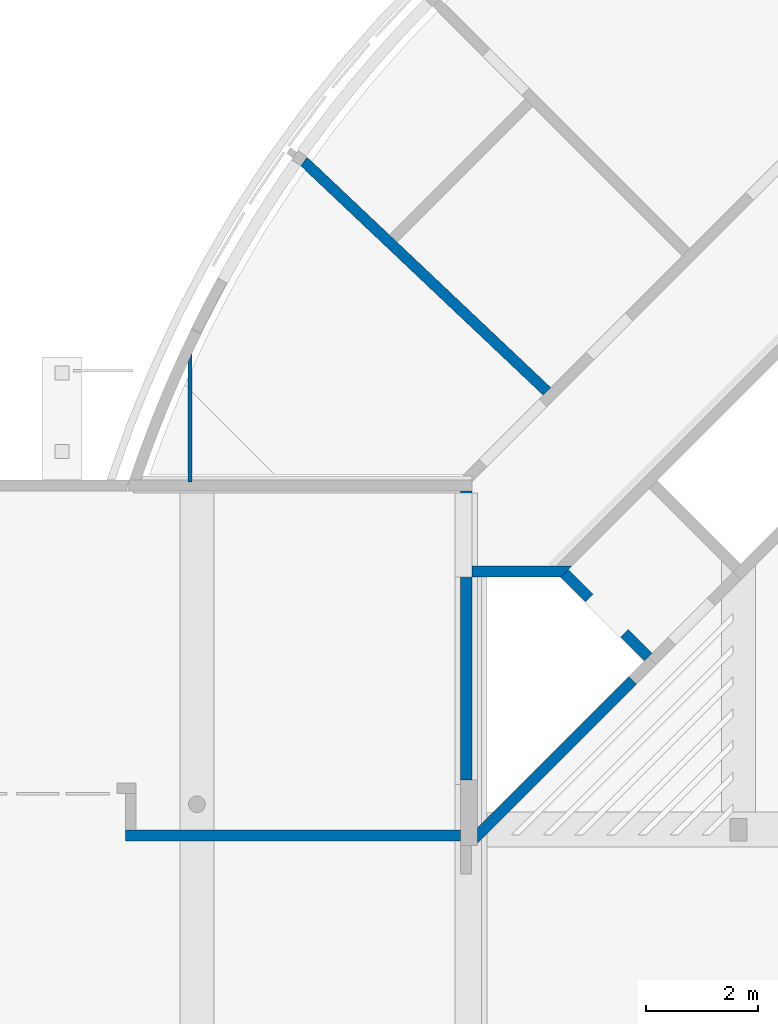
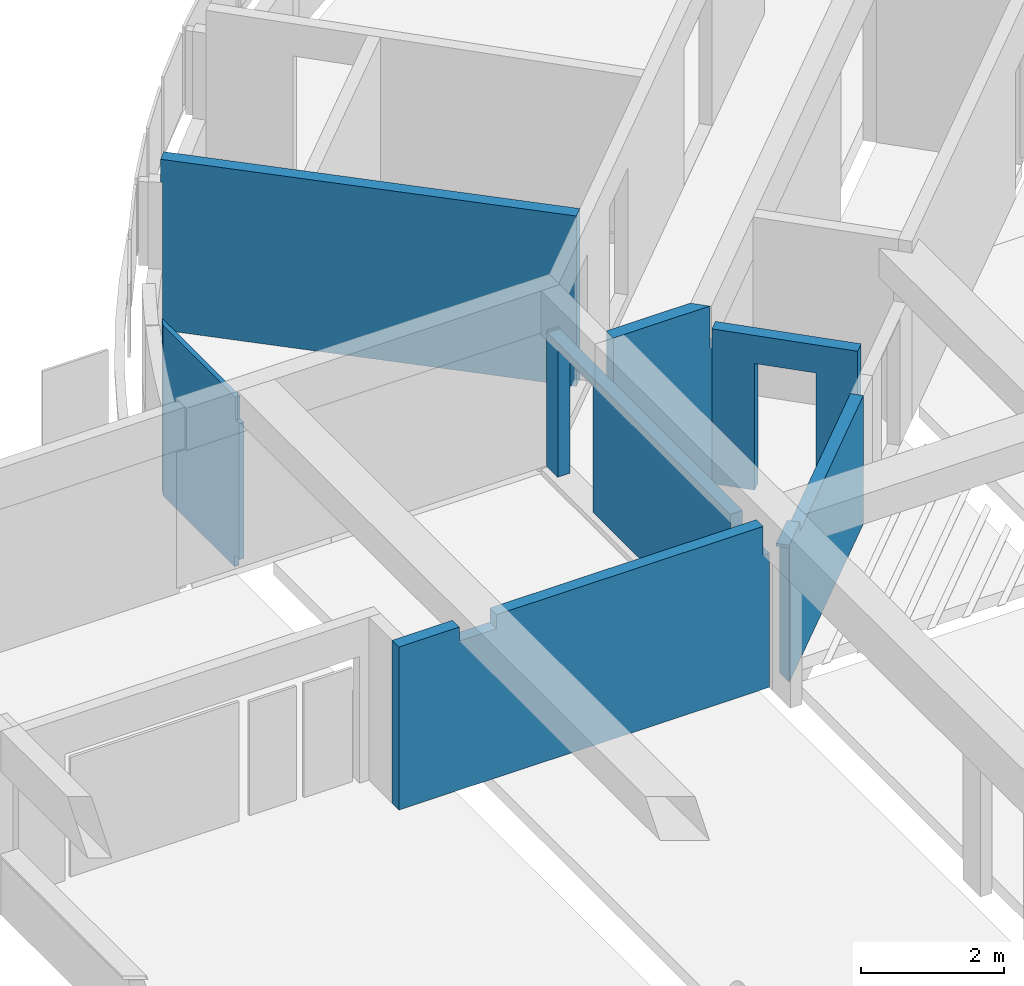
# One storey, part 19 of 22: 7 walls.
"""IFC4X3_ADD2 building model written with IfcOpenShell, lengths in millimetres."""

from ifc_helpers import new_model, si_unit, direction, frame, origin_with_axes, place, context, subcontext, project, spatial, polygons, source, transform, mapped, type_object, type_shapes, element, save


model = new_model("IFC4X3_ADD2")

# Units and contexts
model_context = context("Model", 3, precision=1e-05, world=origin_with_axes(), true_north=direction((0.0, 1.0)))
body_context = subcontext(model_context, "Body", "Model", "MODEL_VIEW")
ifc_project = project(units=[si_unit("LENGTHUNIT", "METRE", prefix="MILLI"), si_unit("AREAUNIT", "SQUARE_METRE"), si_unit("VOLUMEUNIT", "CUBIC_METRE"), si_unit("PLANEANGLEUNIT", "RADIAN"), si_unit("TIMEUNIT", "SECOND"), si_unit("MASSUNIT", "GRAM")], contexts=[model_context])

# Site, building, storey
site_placement = place(None, origin_with_axes())
site = spatial("IfcSite", under=ifc_project, at=site_placement, Name="Site", CompositionType="ELEMENT")
building_placement = place(site_placement, origin_with_axes())
building = spatial("IfcBuilding", under=site, at=building_placement, Name="IFC Building Story")
storey_placement = place(building_placement, frame((0.0, 0.0, -3240.0), z_axis=(0.0, 0.0, 1.0), x_axis=(1.0, 0.0, 0.0)))
storey = spatial("IfcBuildingStorey", under=building, at=storey_placement, Name="K10", Elevation=-3240.0)

# Walls
wall_type = type_object("IfcWallType", Name="Basic Wall_BB_10.01.62#01_Voorzetwand gipskarton_MS75 _ 50.25_ 75 mm", PredefinedType="NOTDEFINED")
shared_shape = source(origin_with_axes(), body_context, "Body", "Tessellation", [
    polygons([(2292.76079066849, 37.5000000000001, 2519.99999999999), (2187.76079066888, 37.5000000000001, 2519.99999999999), (2187.76079066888, 25.000000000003, 2519.99999999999), (2292.76079066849, 25.000000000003, 2519.99999999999), (26.7488330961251, 25.000000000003, 2910.0), (2187.76079066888, 25.000000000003, 2910.0), (2187.76079066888, 37.5000000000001, 2910.0), (0.0, 37.5000000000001, 2910.0), (13.372326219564, 31.2455070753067, 2910.0), (2162.76079066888, 25.000000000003, 0.0), (26.7488330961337, 25.000000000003, 0.0), (13.3723262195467, 31.2455070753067, 0.0), (1.25612586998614e-10, 37.4999999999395, 0.0), (2162.76079066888, 37.5000000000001, 0.0), (2292.76079066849, 25.000000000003, 200.0), (2162.76079066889, 25.000000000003, 200.0), (2162.76079066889, 37.5000000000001, 200.0), (2292.76079066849, 37.5000000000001, 200.0), (13.0940568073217, 31.3755475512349, 1290.55410443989), (1.25612586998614e-10, 37.4999999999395, 1259.99999999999), (12.3748671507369, 31.7116602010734, 1183.40402303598), (13.5488535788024, 31.1630150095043, 2234.49856333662), (1.29944055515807e-10, 37.4999999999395, 2362.49999999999), (1.25612586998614e-10, 37.4999999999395, 2204.99999999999), (1.25612586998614e-10, 37.4999999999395, 1889.99999999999), (13.5554349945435, 31.1599395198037, 1979.52011518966), (1.29944055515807e-10, 37.4999999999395, 2047.49999999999), (13.3723186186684, 31.2455106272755, 723.828161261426), (12.9948402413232, 31.4219144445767, 877.020115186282), (1.2128111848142e-10, 37.4999999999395, 800.424138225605), (1.29944055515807e-10, 37.4999999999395, 161.808046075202), (13.372318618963, 31.2455106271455, 134.069083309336), (13.3723186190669, 31.2455106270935, 242.712069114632), (13.3723186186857, 31.2455106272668, 404.520115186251), (1.2128111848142e-10, 37.4999999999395, 485.424138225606), (1.25612586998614e-10, 37.4999999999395, 323.616092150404), (1.25612586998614e-10, 37.4999999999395, 647.232184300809), (13.3723186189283, 31.2455106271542, 613.503881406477), (1.25612586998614e-10, 37.4999999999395, 2519.99999999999), (13.4904824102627, 31.1902919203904, 2405.60296038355), (13.3723186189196, 31.2455106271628, 2519.99999999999), (13.3723186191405, 31.2455106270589, 2772.04798848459), (1.51601398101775e-10, 37.4999999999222, 2829.09597696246), (1.99247551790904e-10, 37.4999999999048, 2681.80804607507), (26.7488330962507, 24.9999999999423, 2196.38390784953), (26.7488330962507, 24.9999999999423, 2358.19195392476), (26.7488330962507, 24.9999999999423, 1907.23218430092), (26.7488330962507, 24.9999999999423, 2051.80804607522), (1.25612586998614e-10, 37.4999999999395, 1106.8080460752), (13.1779549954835, 31.3363398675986, 2124.09597696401), (26.7488330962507, 24.9999999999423, 161.808046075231), (26.7488330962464, 24.9999999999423, 323.616092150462), (26.7488330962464, 24.9999999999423, 485.424138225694), (26.748833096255, 24.9999999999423, 647.232184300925), (26.748833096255, 24.9999999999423, 809.040230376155), (26.7488330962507, 24.9999999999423, 2519.99999999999), (26.748833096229, 24.999999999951, 2600.90402303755), (26.7488330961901, 24.9999999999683, 2714.99999999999), (26.7488330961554, 24.9999999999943, 2829.09597696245), (13.7794021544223, 31.0552814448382, 509.01199829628), (13.1364367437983, 31.355742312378, 984.818093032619), (1.25612586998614e-10, 37.4999999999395, 953.616092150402), (1.25612586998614e-10, 37.4999999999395, 1417.49999999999), (13.66710750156, 31.1077554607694, 1870.38995837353), (26.7488330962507, 24.9999999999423, 1447.65632252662), (12.8607753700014, 31.4845679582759, 1460.56724686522), (13.6497667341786, 31.1158586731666, 1570.21363494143), (26.7488330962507, 24.9999999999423, 970.848276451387), (26.7488330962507, 24.9999999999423, 1294.46436860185), (14.2316667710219, 30.8439511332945, 1677.4442534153), (26.7488330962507, 24.9999999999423, 1600.84827645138), (1.25612586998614e-10, 37.4999999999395, 1574.99999999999), (14.7036551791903, 30.623417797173, 1774.05323855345), (1.29944055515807e-10, 37.4999999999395, 1732.49999999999), (26.7488330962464, 24.9999999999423, 1754.04023037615), (26.7488330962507, 24.9999999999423, 1132.65632252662), (15.364791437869, 30.3145293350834, 1084.72827126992), (14.1860760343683, 30.8652538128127, 2657.95201152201)], [[[1, 2, 3, 4]], [[9, 5, 6]], [[9, 6, 7]], [[7, 8, 9]], [[12, 13, 14]], [[14, 10, 11]], [[14, 11, 12]], [[15, 16, 17, 18]], [[19, 20, 21]], [[22, 23, 24]], [[25, 26, 27]], [[28, 29, 30]], [[31, 13, 12]], [[31, 12, 32]], [[33, 34, 35]], [[33, 35, 36]], [[36, 31, 32]], [[36, 32, 33]], [[37, 35, 38]], [[38, 28, 30]], [[38, 30, 37]], [[39, 40, 41]], [[43, 44, 42]], [[42, 9, 8]], [[42, 8, 43]], [[45, 46, 22]], [[26, 47, 48]], [[21, 20, 49]], [[50, 48, 45]], [[52, 53, 34]], [[52, 34, 33]], [[33, 32, 51]], [[33, 51, 52]], [[32, 12, 11]], [[32, 11, 51]], [[54, 55, 28]], [[54, 28, 38]], [[38, 53, 54]], [[56, 57, 41, 40]], [[59, 5, 9]], [[59, 9, 42]], [[42, 58, 59]], [[50, 22, 24]], [[60, 35, 34]], [[39, 23, 22, 40]], [[55, 29, 28]], [[61, 49, 62, 29]], [[63, 20, 19]], [[29, 62, 30]], [[64, 47, 26]], [[65, 66, 19]], [[67, 66, 65]], [[50, 27, 26]], [[29, 68, 61]], [[65, 19, 69]], [[70, 67, 71]], [[64, 26, 25]], [[22, 50, 45]], [[24, 27, 50]], [[50, 26, 48]], [[67, 70, 72]], [[73, 74, 70]], [[25, 74, 73]], [[75, 70, 71]], [[75, 47, 64]], [[22, 46, 56, 40]], [[76, 21, 77]], [[19, 21, 69]], [[60, 34, 53]], [[68, 29, 55]], [[77, 68, 76]], [[73, 70, 75]], [[72, 70, 74]], [[66, 72, 63]], [[65, 71, 67]], [[77, 49, 61]], [[69, 21, 76]], [[49, 77, 21]], [[68, 77, 61]], [[53, 38, 60]], [[35, 60, 38]], [[75, 64, 73]], [[73, 64, 25]], [[72, 66, 67]], [[19, 66, 63]], [[4, 15, 18, 1]], [[10, 14, 17, 16]], [[3, 2, 7, 6]], [[3, 6, 16]], [[16, 15, 4]], [[16, 4, 3]], [[51, 11, 10]], [[51, 10, 16]], [[16, 52, 51]], [[16, 53, 52]], [[16, 54, 53]], [[16, 55, 54]], [[16, 68, 55]], [[16, 76, 68]], [[16, 69, 76]], [[16, 65, 69]], [[16, 6, 71]], [[16, 71, 65]], [[6, 75, 71]], [[6, 47, 75]], [[6, 48, 47]], [[6, 45, 48]], [[6, 46, 45]], [[6, 56, 46]], [[6, 57, 56]], [[6, 58, 57]], [[6, 59, 58]], [[6, 5, 59]], [[17, 14, 13]], [[17, 13, 31]], [[43, 8, 7]], [[7, 44, 43]], [[7, 39, 44]], [[7, 23, 39]], [[7, 24, 23]], [[7, 27, 24]], [[7, 25, 27]], [[7, 74, 25]], [[7, 17, 72]], [[7, 72, 74]], [[17, 63, 72]], [[17, 20, 63]], [[17, 49, 20]], [[17, 62, 49]], [[17, 30, 62]], [[17, 37, 30]], [[17, 35, 37]], [[17, 36, 35]], [[17, 31, 36]], [[2, 1, 18]], [[2, 18, 17]], [[17, 7, 2]], [[78, 42, 44]], [[78, 57, 58]], [[39, 41, 78]], [[57, 78, 41]], [[42, 78, 58]], [[78, 44, 39]]]),
    polygons([(2292.76079066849, 25.000000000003, 2519.99999999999), (2187.76079066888, 25.000000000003, 2519.99999999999), (2187.76079066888, 12.4999999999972, 2519.99999999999), (2292.76079066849, 12.4999999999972, 2519.99999999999), (53.5917101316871, 12.4999999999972, 2910.0), (2187.76079066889, 12.4999999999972, 2910.0), (2187.76079066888, 25.000000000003, 2910.0), (26.7488330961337, 25.000000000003, 2910.0), (40.1681722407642, 18.7454796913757, 2910.0), (2162.76079066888, 25.000000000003, 200.0), (2162.76079066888, 25.000000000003, 0.0), (26.7488330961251, 25.000000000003, 0.0), (26.7488330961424, 24.9999999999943, 161.808046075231), (26.7488330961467, 24.9999999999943, 323.616092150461), (26.7488330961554, 24.9999999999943, 485.424138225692), (26.7488330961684, 24.9999999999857, 647.232184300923), (26.7488330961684, 24.9999999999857, 800.424138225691), (26.7488330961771, 24.9999999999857, 953.616092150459), (26.7488330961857, 24.999999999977, 1106.80804607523), (26.7488330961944, 24.9999999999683, 1259.99999999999), (26.7488330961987, 24.9999999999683, 1417.49999999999), (26.7488330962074, 24.9999999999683, 1574.99999999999), (26.7488330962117, 24.9999999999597, 1732.49999999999), (26.7488330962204, 24.9999999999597, 1889.99999999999), (26.748833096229, 24.999999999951, 2047.49999999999), (26.7488330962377, 24.999999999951, 2204.99999999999), (26.748833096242, 24.9999999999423, 2362.49999999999), (26.7488330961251, 25.000000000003, 2519.99999999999), (26.7488330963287, 24.9999999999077, 2681.8080460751), (26.748833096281, 24.9999999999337, 2829.09597696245), (2292.76079066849, 25.000000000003, 200.0), (2162.76079066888, 12.4999999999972, 0.0), (53.5917101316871, 12.4999999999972, 0.0), (40.1681722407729, 18.7454796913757, 0.0), (2292.76079066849, 12.4999999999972, 200.0), (2162.76079066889, 12.4999999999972, 200.0), (40.451643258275, 18.6134773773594, 1263.63009914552), (41.2899883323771, 18.2231187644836, 1371.06034556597), (40.3464740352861, 18.6624503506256, 2234.91488742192), (40.3508715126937, 18.6604026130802, 1979.52011518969), (39.01460767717, 19.2827040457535, 931.468849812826), (53.5917101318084, 12.4999999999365, 809.040230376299), (53.5917101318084, 12.4999999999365, 970.848276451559), (40.1681676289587, 18.7454818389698, 133.674840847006), (40.1681676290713, 18.7454818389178, 242.712069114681), (40.1681676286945, 18.7454818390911, 404.520115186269), (40.1681676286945, 18.7454818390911, 723.82816126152), (40.1681676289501, 18.7454818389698, 613.087465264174), (40.2855447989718, 18.6908228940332, 2405.40317962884), (40.1681676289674, 18.7454818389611, 2519.99999999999), (40.1681676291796, 18.7454818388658, 2772.0479884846), (53.591710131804, 12.4999999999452, 2196.38390784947), (53.5917101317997, 12.4999999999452, 2358.19195392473), (53.5917101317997, 12.4999999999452, 1907.23218430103), (53.5917101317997, 12.4999999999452, 2051.80804607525), (39.8849088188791, 18.877390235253, 1137.85454619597), (39.459805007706, 19.0753624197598, 1030.21206911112), (39.9742418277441, 18.8357889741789, 2124.095976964), (53.5917101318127, 12.4999999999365, 161.80804607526), (53.5917101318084, 12.4999999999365, 323.61609215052), (53.5917101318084, 12.4999999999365, 485.42413822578), (53.5917101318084, 12.4999999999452, 647.232184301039), (53.5917101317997, 12.4999999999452, 2519.99999999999), (53.5917101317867, 12.4999999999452, 2600.90402303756), (53.5917101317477, 12.4999999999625, 2714.99999999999), (53.5917101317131, 12.4999999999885, 2829.09597696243), (40.633281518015, 18.5288975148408, 508.803790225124), (40.0209925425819, 18.8140179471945, 832.980088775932), (40.4664048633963, 18.6066035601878, 1869.99530687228), (53.5917101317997, 12.4999999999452, 1754.0402303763), (53.5917101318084, 12.4999999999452, 1132.65632252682), (53.5917101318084, 12.4999999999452, 1294.46436860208), (53.5917101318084, 12.4999999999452, 1447.65632252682), (53.5917101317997, 12.4999999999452, 1600.84827645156), (40.4506198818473, 18.6139539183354, 1569.85349772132), (37.9270951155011, 19.7892418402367, 1469.69131598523), (41.0255799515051, 18.3462306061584, 1677.44425341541), (40.9800919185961, 18.3674108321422, 2657.95201152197), (41.556016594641, 18.0992569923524, 1773.86469636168)], [[[1, 2, 3, 4]], [[9, 5, 6]], [[9, 6, 7]], [[7, 8, 9]], [[10, 11, 12]], [[10, 12, 13]], [[30, 8, 7]], [[7, 29, 30]], [[7, 28, 29]], [[7, 27, 28]], [[7, 26, 27]], [[7, 25, 26]], [[7, 24, 25]], [[7, 23, 24]], [[7, 22, 23]], [[7, 10, 21]], [[7, 21, 22]], [[10, 20, 21]], [[10, 19, 20]], [[10, 18, 19]], [[10, 17, 18]], [[10, 16, 17]], [[10, 15, 16]], [[10, 14, 15]], [[10, 13, 14]], [[2, 1, 31]], [[2, 31, 10]], [[10, 7, 2]], [[34, 12, 11]], [[11, 32, 33]], [[11, 33, 34]], [[35, 36, 10, 31]], [[20, 37, 38]], [[39, 27, 26]], [[24, 40, 25]], [[41, 42, 43]], [[13, 12, 34]], [[13, 34, 44]], [[45, 46, 15]], [[45, 15, 14]], [[14, 13, 44]], [[14, 44, 45]], [[16, 15, 48]], [[48, 47, 17]], [[48, 17, 16]], [[28, 49, 50]], [[30, 29, 51]], [[51, 9, 8]], [[51, 8, 30]], [[52, 53, 39]], [[40, 54, 55]], [[56, 19, 57]], [[58, 55, 52]], [[60, 61, 46]], [[45, 44, 59]], [[45, 59, 60]], [[60, 46, 45]], [[44, 34, 33]], [[44, 33, 59]], [[62, 42, 47]], [[62, 47, 48]], [[48, 61, 62]], [[63, 64, 50, 49]], [[66, 5, 9]], [[66, 9, 51]], [[51, 65, 66]], [[58, 39, 26]], [[67, 15, 46]], [[28, 27, 39, 49]], [[42, 68, 47]], [[57, 19, 18]], [[68, 17, 47]], [[69, 70, 54, 40]], [[37, 71, 72]], [[73, 74, 75]], [[38, 72, 73]], [[21, 38, 76]], [[58, 25, 40]], [[43, 57, 41]], [[77, 75, 74]], [[64, 78, 50]], [[69, 40, 24]], [[39, 58, 52]], [[26, 25, 58]], [[58, 40, 55]], [[75, 77, 22]], [[79, 23, 77]], [[24, 23, 79]], [[70, 77, 74]], [[39, 53, 49]], [[71, 37, 56, 57]], [[38, 37, 72]], [[67, 46, 61]], [[17, 68, 41]], [[41, 57, 18]], [[71, 57, 43]], [[20, 19, 56]], [[79, 77, 70]], [[22, 77, 23]], [[76, 22, 21]], [[76, 73, 75]], [[20, 38, 21]], [[20, 56, 37]], [[73, 76, 38]], [[22, 76, 75]], [[63, 49, 53]], [[17, 41, 18]], [[41, 68, 42]], [[61, 48, 67]], [[15, 67, 48]], [[70, 69, 79]], [[79, 69, 24]], [[4, 35, 31, 1]], [[32, 11, 10, 36]], [[3, 2, 7, 6]], [[3, 6, 36]], [[36, 35, 4]], [[36, 4, 3]], [[59, 33, 32]], [[59, 32, 36]], [[36, 60, 59]], [[36, 61, 60]], [[36, 62, 61]], [[36, 42, 62]], [[36, 43, 42]], [[36, 71, 43]], [[36, 72, 71]], [[36, 73, 72]], [[36, 6, 74]], [[36, 74, 73]], [[6, 70, 74]], [[6, 54, 70]], [[6, 55, 54]], [[6, 52, 55]], [[6, 53, 52]], [[6, 63, 53]], [[6, 64, 63]], [[6, 65, 64]], [[6, 66, 65]], [[6, 5, 66]], [[78, 51, 29]], [[78, 64, 65]], [[28, 50, 78]], [[51, 78, 65]], [[78, 29, 28]]]),
    polygons([(2292.76079066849, 12.4999999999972, 2519.99999999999), (2187.76079066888, 12.4999999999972, 2519.99999999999), (2187.76079066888, -37.5000000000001, 2519.99999999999), (2292.76079066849, -37.5000000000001, 2519.99999999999), (161.920234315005, -37.5000000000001, 2910.0), (2187.76079066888, -37.5000000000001, 2910.0), (2187.76079066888, 12.4999999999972, 2910.0), (53.5917101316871, 12.4999999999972, 2910.0), (107.72201223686, -12.5734468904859, 2910.0), (2162.76079066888, 12.4999999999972, 200.0), (2162.76079066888, 12.4999999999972, 0.0), (53.5917101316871, 12.4999999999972, 0.0), (53.5917101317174, 12.4999999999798, 647.232184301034), (53.5917101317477, 12.4999999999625, 1294.46436860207), (53.5917101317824, 12.4999999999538, 1907.23218430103), (53.5917101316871, 12.4999999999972, 2519.99999999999), (2292.76079066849, 12.4999999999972, 200.0), (2162.76079066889, -37.5000000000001, 0.0), (161.920234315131, -37.5000000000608, 0.0), (107.72201223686, -12.5734468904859, 0.0), (2292.76079066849, -37.5000000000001, 200.0), (2162.76079066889, -37.5000000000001, 200.0), (109.219991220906, -13.2647843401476, 1566.38390785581), (106.857042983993, -12.1741898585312, 1110.2493930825), (161.920234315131, -37.5000000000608, 1259.99999999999), (108.328105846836, -12.8531836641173, 2006.98850005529), (161.920234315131, -37.5000000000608, 1872.76781569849), (161.920234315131, -37.5000000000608, 2519.99999999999), (107.722061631, -12.5734696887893, 2519.99999999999), (107.260540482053, -12.3604440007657, 460.433273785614), (161.920234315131, -37.5000000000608, 629.999999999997)], [[[1, 2, 3, 4]], [[9, 5, 6]], [[9, 6, 7]], [[7, 8, 9]], [[10, 11, 12]], [[16, 8, 7]], [[7, 15, 16]], [[7, 10, 14]], [[7, 14, 15]], [[10, 13, 14]], [[10, 12, 13]], [[2, 1, 17]], [[2, 17, 10]], [[10, 7, 2]], [[20, 12, 11]], [[11, 18, 19]], [[11, 19, 20]], [[21, 22, 10, 17]], [[23, 24, 25]], [[15, 26, 16]], [[15, 23, 26]], [[25, 27, 23]], [[28, 29, 26]], [[19, 30, 20]], [[24, 31, 25]], [[12, 20, 30]], [[19, 31, 30]], [[23, 15, 14]], [[23, 27, 26]], [[24, 23, 14]], [[14, 13, 24]], [[24, 13, 30]], [[28, 26, 27]], [[16, 26, 29]], [[24, 30, 31]], [[12, 30, 13]], [[4, 21, 17, 1]], [[18, 11, 10, 22]], [[3, 2, 7, 6]], [[3, 6, 22]], [[22, 21, 4]], [[22, 4, 3]], [[31, 19, 18]], [[31, 18, 22]], [[22, 25, 31]], [[22, 6, 27]], [[22, 27, 25]], [[6, 28, 27]], [[6, 5, 28]], [[5, 9, 29, 28]], [[9, 8, 16, 29]]]),
])
type_shapes(wall_type, [shared_shape])
wall_1_placement = place(storey_placement, frame((-43622.5, 32987.7607906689, -200.0), z_axis=(0.0, 0.0, 1.0), x_axis=(0.0, -1.0, 0.0)))
element("IfcWall", 1, at=wall_1_placement, inside=storey, type_object=wall_type, Name="Basic Wall:BB_10.01.62#01_Voorzetwand gipskarton_MS75 / 50.25, 75 mm", ObjectType="Basic Wall:BB_10.01.62#01_Voorzetwand gipskarton_MS75 / 50.25, 75 mm", PredefinedType="PARTITIONING", context=body_context, shape_type="MappedRepresentation", body=[
    mapped(shared_shape, transform((0.0, 0.0, 0.0))),
])
wall_2_placement = place(storey_placement, frame((0.0, 0.0, 3240.0), z_axis=(0.0, 0.0, 1.0), x_axis=(1.0, 0.0, 0.0)))
element("IfcWall", 2, at=wall_2_placement, inside=storey, Name="Basic Wall:BB_XX_Wand uit beton, 200 mm", ObjectType="Basic Wall:BB_XX_Wand uit beton, 200 mm", PredefinedType="SOLIDWALL", context=body_context, shape_type="Tessellation", body=[
    polygons([(-38599.99999999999, 25387.5, -3240.0), (-38600.0, 29219.99999999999, -3240.0), (-38600.0, 29219.99999999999, -1080.0), (-38599.99999999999, 30210.0, -1080.0), (-38599.99999999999, 30210.0, -3240.0), (-38599.99999999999, 30530.0, -3240.0), (-38599.99999999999, 30530.0, -920.0), (-38599.99999999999, 30499.99999999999, -920.0), (-38599.99999999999, 30499.99999999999, -950.0), (-38599.99999999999, 25387.5, -950.0), (-38800.0, 25387.5, -3240.0), (-38800.0, 25387.5, -950.0), (-38800.0, 30499.99999999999, -950.0), (-38800.0, 30499.99999999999, -920.0), (-38800.0, 30530.0, -920.0), (-38800.0, 30530.0, -3240.0), (-38800.0, 30210.0, -3240.0), (-38800.0, 30210.0, -1080.0), (-38800.0, 29219.99999999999, -1080.0), (-38800.0, 29219.99999999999, -3240.0)], [[[9, 4, 5]], [[9, 5, 6]], [[6, 7, 9]], [[7, 8, 9]], [[9, 3, 4]], [[3, 9, 10]], [[10, 1, 2]], [[10, 2, 3]], [[13, 14, 15]], [[19, 20, 11]], [[19, 11, 12]], [[12, 13, 19]], [[13, 18, 19]], [[13, 15, 16]], [[16, 17, 18]], [[16, 18, 13]], [[2, 1, 11, 20]], [[10, 9, 13, 12]], [[1, 10, 12, 11]], [[3, 2, 20, 19]], [[4, 3, 19, 18]], [[5, 4, 18, 17]], [[6, 5, 17, 16]], [[8, 7, 15, 14]], [[9, 8, 14, 13]], [[7, 6, 16, 15]]]),
])
wall_3_placement = place(storey_placement, frame((0.0, 0.0, 3240.0), z_axis=(0.0, 0.0, 1.0), x_axis=(1.0, 0.0, 0.0)))
element("IfcWall", 3, at=wall_3_placement, inside=storey, Name="Basic Wall:BB_XX_Wand uit beton, 200 mm", ObjectType="Basic Wall:BB_XX_Wand uit beton, 200 mm", PredefinedType="SOLIDWALL", context=body_context, shape_type="Tessellation", body=[
    polygons([(-36812.9942314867, 29200.0, -3240.0), (-38600.00000000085, 29200.0, -3240.0), (-38600.00000000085, 29200.0, -200.0), (-37237.25830019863, 29200.0, -200.0), (-37237.25830019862, 29200.0, -920.0), (-37095.83694396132, 29200.0, -920.0), (-36812.9942314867, 29200.0, -920.0), (-38600.00000000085, 29000.0, -3240.0), (-37012.9942314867, 29000.0, -3240.0), (-37012.99423148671, 29000.0, -920.0), (-37044.96301501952, 29000.0, -920.0), (-37044.96301501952, 29000.0, -200.0), (-38600.00000000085, 29000.0, -200.0), (-37241.11065760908, 29196.14764258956, -200.0), (-37241.11065760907, 29196.14764258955, -920.0)], [[[6, 7, 1]], [[1, 5, 6]], [[5, 1, 2]], [[5, 2, 3]], [[3, 4, 5]], [[11, 12, 13]], [[13, 8, 9]], [[13, 9, 11]], [[9, 10, 11]], [[2, 1, 9, 8]], [[3, 2, 8, 13]], [[14, 4, 3]], [[3, 13, 12]], [[3, 12, 14]], [[15, 14, 12, 11]], [[6, 5, 15]], [[6, 15, 11]], [[11, 10, 7]], [[11, 7, 6]], [[14, 15, 5, 4]], [[9, 1, 7, 10]]]),
])
wall_4_placement = place(storey_placement, frame((0.0, 0.0, 3240.0), z_axis=(0.0, 0.0, 1.0), x_axis=(1.0, 0.0, 0.0)))
element("IfcWall", 4, at=wall_4_placement, inside=storey, Name="Basic Wall:BB_03.09.24#03_Wand uit metselwerk, 190 mm", ObjectType="Basic Wall:BB_03.09.24#03_Wand uit metselwerk, 190 mm", PredefinedType="SOLIDWALL", context=body_context, shape_type="Tessellation", body=[
    polygons([(-37328.14655255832, 32240.55402429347, -530.0), (-41667.85117521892, 36344.40868086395, -530.0), (-41667.85117521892, 36344.40868086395, -920.0), (-41648.60300144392, 36326.20658776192, -920.0), (-41648.60300144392, 36326.20658776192, -3440.0), (-37328.14655255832, 32240.55402429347, -3440.0), (-37193.74386254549, 32374.95671430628, -3440.0), (-39935.05103464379, 34967.28204091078, -3440.0), (-40073.15406642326, 35097.87958598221, -3440.0), (-41537.30454816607, 36482.45786834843, -3440.0), (-41537.30454816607, 36482.45786834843, -530.0), (-40073.15406642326, 35097.87958598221, -530.0), (-39935.05103464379, 34967.28204091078, -530.0), (-37193.74386254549, 32374.95671430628, -530.0), (-41538.33655307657, 36481.36655375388, -3440.0), (-41538.33655307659, 36481.36655375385, -920.0)], [[[4, 5, 6]], [[4, 6, 1]], [[1, 2, 4]], [[2, 3, 4]], [[9, 10, 11]], [[9, 11, 12]], [[12, 13, 8]], [[12, 8, 9]], [[13, 14, 7]], [[13, 7, 8]], [[8, 7, 6]], [[6, 9, 8]], [[6, 5, 9]], [[5, 15, 10]], [[5, 10, 9]], [[12, 11, 2]], [[2, 13, 12]], [[13, 2, 1]], [[1, 14, 13]], [[16, 3, 2]], [[16, 2, 11]], [[16, 11, 10]], [[10, 15, 16]], [[1, 6, 7, 14]], [[16, 4, 3]], [[4, 16, 15, 5]]]),
])
wall_5_placement = place(storey_placement, frame((0.0, 0.0, 3240.0), z_axis=(0.0, 0.0, 1.0), x_axis=(1.0, 0.0, 0.0)))
element("IfcWall", 5, at=wall_5_placement, inside=storey, Name="Basic Wall:BB_03.09.24#05_Wand uit metselwerk_EI60, 190 mm", ObjectType="Basic Wall:BB_03.09.24#05_Wand uit metselwerk_EI60, 190 mm", PredefinedType="SOLIDWALL", context=body_context, shape_type="Tessellation", body=[
    polygons([(-38218.96597154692, 24810.00000000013, -1050.0), (-35803.08261196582, 27225.88335958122, -1050.0), (-35803.08261196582, 27225.88335958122, -3240.0), (-38500.00000000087, 24528.96597154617, -3240.0), (-38500.00000000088, 24528.96597154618, -950.0), (-38631.50973671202, 24397.45623483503, -950.0), (-38631.50973671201, 24397.45623483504, -900.0), (-38218.96597154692, 24810.00000000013, -900.0), (-38497.15944828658, 24263.10594640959, -3240.0), (-35668.73232354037, 27091.53307115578, -3240.0), (-35668.73232354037, 27091.53307115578, -1050.0), (-38084.61568312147, 24675.64971157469, -1050.0), (-38084.61568312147, 24675.64971157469, -900.0), (-38497.15944828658, 24263.1059464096, -900.0), (-38500.00000000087, 24265.9464981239, -3240.0), (-38500.00000000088, 24265.9464981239, -950.0)], [[[1, 2, 3]], [[1, 3, 4]], [[4, 5, 1]], [[5, 6, 7]], [[5, 7, 8]], [[8, 1, 5]], [[12, 13, 14]], [[12, 14, 9]], [[9, 10, 11]], [[9, 11, 12]], [[10, 9, 15]], [[10, 15, 4]], [[10, 4, 3]], [[16, 15, 9]], [[9, 14, 16]], [[14, 7, 6]], [[14, 6, 16]], [[2, 1, 12, 11]], [[3, 2, 11, 10]], [[8, 7, 14, 13]], [[1, 8, 13, 12]], [[16, 5, 4, 15]], [[5, 16, 6]]]),
])
wall_6_placement = place(storey_placement, frame((0.0, 0.0, 3240.0), z_axis=(0.0, 0.0, 1.0), x_axis=(1.0, 0.0, 0.0)))
element("IfcWall", 6, at=wall_6_placement, inside=storey, Name="Basic Wall:BB_03.09.24#03_Wand uit metselwerk, 190 mm", ObjectType="Basic Wall:BB_03.09.24#03_Wand uit metselwerk, 190 mm", PredefinedType="SOLIDWALL", context=body_context, shape_type="Tessellation", body=[
    polygons([(-38800.0, 24490.0, -3240.0), (-44584.99999999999, 24490.0, -3240.0), (-44774.99999999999, 24490.0, -3240.0), (-44774.99999999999, 24490.0, -460.0), (-44584.99999999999, 24490.0, -460.0), (-43800.00000000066, 24490.0, -460.0), (-43800.00000000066, 24490.0, -700.0), (-43200.00000000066, 24490.0, -700.0), (-43200.00000000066, 24490.0, -460.0), (-38900.00000000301, 24490.0, -460.0), (-38900.00000000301, 24490.0, -950.0), (-38800.0, 24490.0, -950.0), (-38800.0, 24300.0, -3240.0), (-38800.0, 24300.0, -950.0), (-38900.00000000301, 24300.0, -950.0), (-38900.00000000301, 24300.0, -460.0), (-43200.00000000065, 24300.0, -460.0), (-43200.00000000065, 24300.0, -700.0), (-43800.00000000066, 24300.0, -700.0), (-43800.00000000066, 24300.0, -460.0), (-44774.99999999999, 24300.0, -460.0), (-44774.99999999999, 24300.0, -3240.0)], [[[2, 3, 4]], [[2, 4, 5]], [[11, 12, 1]], [[11, 1, 8]], [[8, 9, 10]], [[8, 10, 11]], [[1, 2, 7]], [[1, 7, 8]], [[2, 5, 7]], [[5, 6, 7]], [[15, 16, 17]], [[15, 17, 18]], [[19, 20, 21]], [[19, 21, 22]], [[22, 18, 19]], [[22, 13, 15]], [[22, 15, 18]], [[13, 14, 15]], [[4, 3, 22, 21]], [[2, 1, 13]], [[2, 13, 22]], [[22, 3, 2]], [[5, 4, 21]], [[21, 20, 6]], [[21, 6, 5]], [[1, 12, 14, 13]], [[7, 6, 20, 19]], [[8, 7, 19, 18]], [[9, 8, 18, 17]], [[10, 9, 17, 16]], [[11, 10, 16, 15]], [[12, 11, 15, 14]]]),
])
wall_7_placement = place(storey_placement, frame((0.0, 0.0, 3240.0), z_axis=(0.0, 0.0, 1.0), x_axis=(1.0, 0.0, 0.0)))
element("IfcWall", 7, at=wall_7_placement, inside=storey, Name="Basic Wall:BB_03.09.24#05_Wand uit metselwerk_EI60, 190 mm", ObjectType="Basic Wall:BB_03.09.24#05_Wand uit metselwerk_EI60, 190 mm", PredefinedType="SOLIDWALL", context=body_context, shape_type="Tessellation", body=[
    polygons([(-35520.98010151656, 27507.9858700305, -3240.0), (-35520.98010151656, 27507.9858700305, -600.0), (-37012.99423148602, 28999.99999999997, -600.0), (-37012.99423148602, 28999.99999999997, -3240.0), (-36574.56920548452, 28561.57497399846, -3240.0), (-36574.56920548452, 28561.57497399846, -1080.0), (-35945.24417022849, 27932.24993874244, -1080.0), (-35945.24417022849, 27932.24993874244, -3240.0), (-35386.62981309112, 27642.33615845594, -600.0), (-35386.62981309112, 27642.33615845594, -3240.0), (-35810.89388180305, 28066.60022716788, -3240.0), (-35810.89388180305, 28066.60022716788, -1080.0), (-36440.21891705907, 28695.92526242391, -1080.0), (-36440.21891705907, 28695.92526242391, -3240.0), (-36878.64394306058, 29134.35028842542, -3240.0), (-36878.64394306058, 29134.35028842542, -600.0)], [[[7, 8, 1]], [[7, 1, 2]], [[2, 3, 6]], [[2, 6, 7]], [[3, 4, 5]], [[3, 5, 6]], [[13, 14, 15]], [[13, 15, 16]], [[16, 9, 12]], [[16, 12, 13]], [[9, 10, 11]], [[9, 11, 12]], [[4, 15, 14, 5]], [[2, 1, 10, 9]], [[3, 2, 9, 16]], [[4, 3, 16, 15]], [[12, 7, 6, 13]], [[7, 12, 11, 8]], [[13, 6, 5, 14]], [[10, 1, 8, 11]]]),
])

save(model, "model.ifc")
